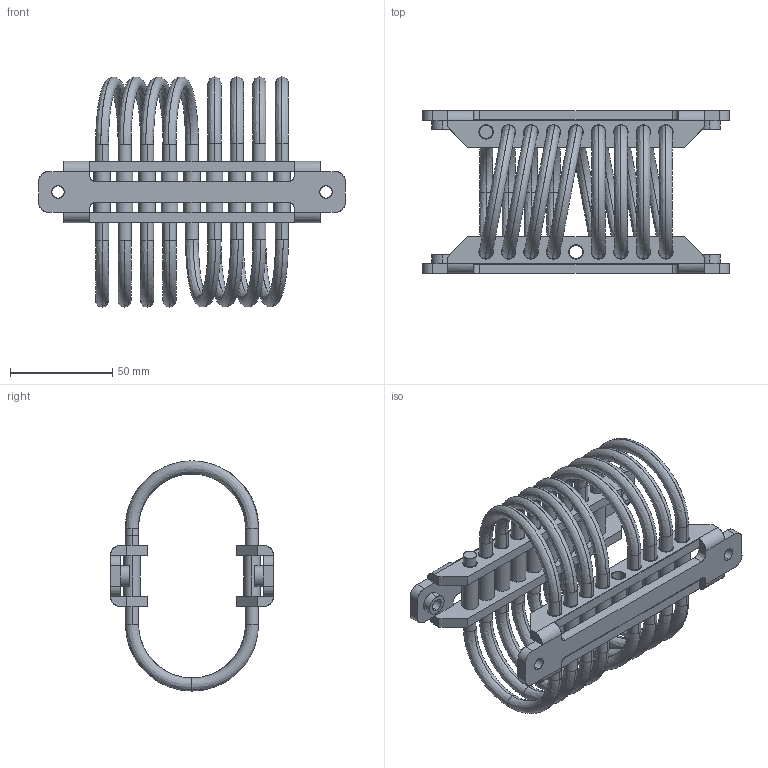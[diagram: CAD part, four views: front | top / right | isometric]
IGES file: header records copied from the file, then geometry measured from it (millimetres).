
Start section: SolidWorks IGES file using analytic representation for surfaces
Bounding box: 150 x 79.7 x 112.58 mm (x, y, z)
Surface area: 86517.8 mm2 (no closed solid volume)
Topology: 0 solids, 0 shells, 308 faces, 6832 edges, 6832 vertices
Faces by surface type: revolution 166, bspline 142
